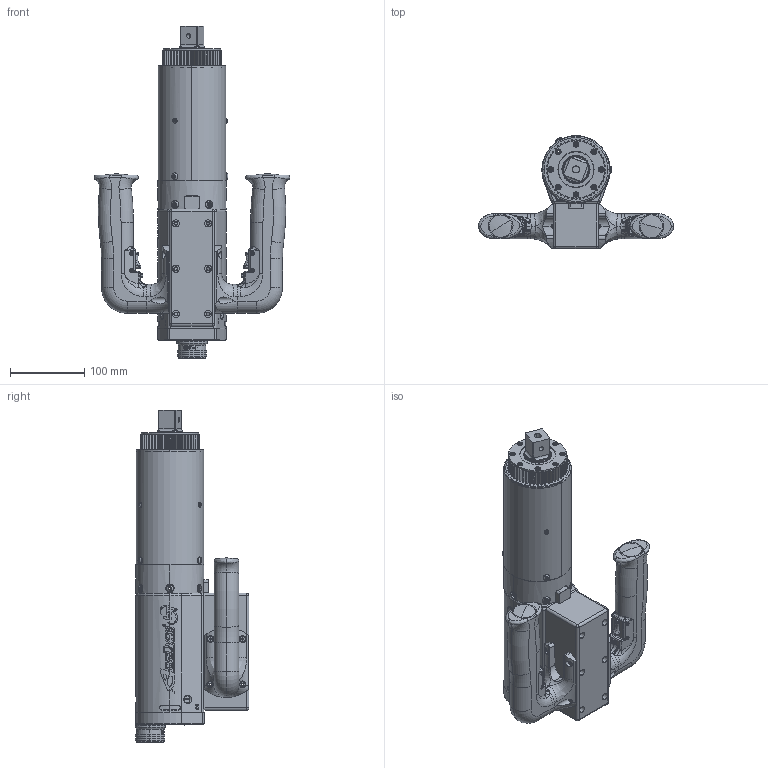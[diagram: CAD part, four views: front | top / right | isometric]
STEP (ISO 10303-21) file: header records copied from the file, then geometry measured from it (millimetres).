
FILE_DESCRIPTION (( 'STEP AP203' ), '1' );
FILE_NAME ('AEJ4_88_ _ _ _B_DL.STEP', '2025-02-06T11:57:47', ( '' ), ( '' ), 'SwSTEP 2.0', 'SolidWorks 2024', '' );
FILE_SCHEMA (( 'CONFIG_CONTROL_DESIGN' ));
Length unit declared in the file: inch
Products named in the file (1): AEJ4_88_ _ _ _B_DL
Bounding box: 262.68 x 152.89 x 446.1 mm (x, y, z)
Surface area: 339086.3 mm2 (no closed solid volume)
Topology: 0 solids, 114 shells, 1808 faces, 6659 edges, 4816 vertices
Faces by surface type: cylinder 661, bspline 427, plane 389, torus 182, cone 134, sphere 15
Entity records: 92291 total; most frequent: CARTESIAN_POINT 41620, ORIENTED_EDGE 10097, DIRECTION 9306, EDGE_CURVE 6651, VERTEX_POINT 4816, AXIS2_PLACEMENT_3D 3517, LINE 2272, VECTOR 2272
